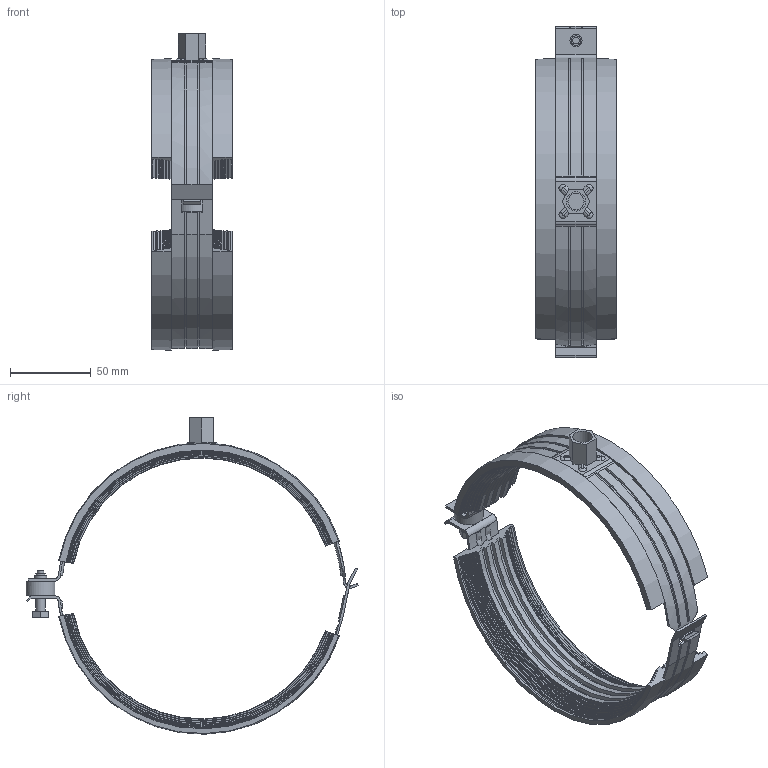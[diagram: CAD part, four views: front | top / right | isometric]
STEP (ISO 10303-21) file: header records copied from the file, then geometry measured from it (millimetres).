
FILE_DESCRIPTION(/* description */ (''),/* implementation_level */ '2;1');
FILE_NAME(/* name */ 'H:\Geberit-Teile\Export\Rohrschelle Si\stp\393799.stp',/* time_stamp */ '2017-02-14T11:12:20+01:00',/* author */ ('seihe2'),/* organization */ (''),/* preprocessor_version */ 'ST-DEVELOPER v15.2',/* originating_system */ 'Autodesk Inventor 2014',/* authorisation */ '');
FILE_SCHEMA (('AUTOMOTIVE_DESIGN { 1 0 10303 214 3 1 1 }'));
Length unit declared in the file: millimetre
Products named in the file (1): 393799
Bounding box: 50 x 206.13 x 196.49 mm (x, y, z)
Volume: 151632.8 mm3; surface area: 85863.9 mm2
Topology: 1 solids, 1 shells, 342 faces, 978 edges, 628 vertices
Faces by surface type: plane 98, cylinder 92, cone 84, torus 50, bspline 18
Full cylindrical faces by diameter (mm): 4 x1, 6 x2, 7.5 x1, 10 x1, 12 x1, 18.16 x1
Entity records: 11828 total; most frequent: CARTESIAN_POINT 2224, DIRECTION 2049, ORIENTED_EDGE 1948, EDGE_CURVE 971, AXIS2_PLACEMENT_3D 771, VERTEX_POINT 626, LINE 507, VECTOR 507
